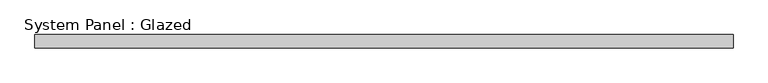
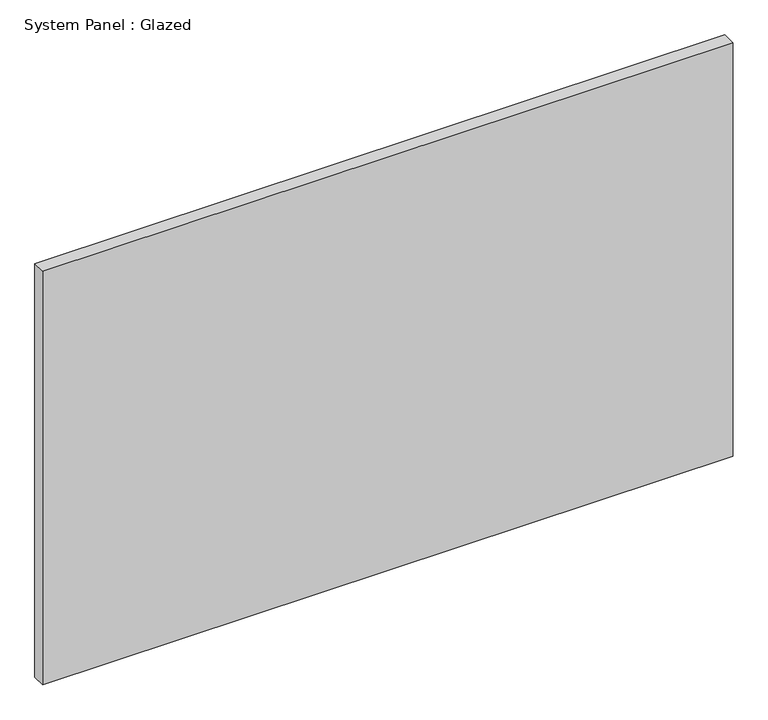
"""IFC4 building model written with IfcOpenShell, lengths in millimetres: plate geometry, System Panel : Glazed."""

from ifc_helpers import new_model, si_unit, origin, origin_with_axes, place, context, project, spatial, polyline, outline, extrude, source, transform, mapped, element, save


def system_panel_glazed_262f750d(model_context):
    return source(origin(), model_context, "Body", "SweptSolid", [
        extrude(outline(polyline([(651.2606048, -49.5), (-651.2606048, -49.5), (-651.2606048, -24.5), (651.2606048, -24.5), (651.2606048, -49.5)])), origin_with_axes(), (0.0, 0.0, 1.0), 825.0),
    ])


if __name__ == "__main__":
    model = new_model("IFC4")
    model_context = context("Model", 3, world=origin())
    ifc_project = project(units=[si_unit("LENGTHUNIT", "METRE", prefix="MILLI")], contexts=[model_context])
    site = spatial("IfcSite", under=ifc_project)
    building = spatial("IfcBuilding", under=site)
    placement = place(None, origin())
    system_panel_glazed_shape = system_panel_glazed_262f750d(model_context)
    element("IfcPlate", 1, ObjectType="System Panel : Glazed", at=placement, inside=building, context=model_context, shape_type="MappedRepresentation", body=[
        mapped(system_panel_glazed_shape, transform((0.0, 0.0, 0.0), x_axis=(1.0, 0.0, 0.0), y_axis=(0.0, 1.0, 0.0), z_axis=(0.0, 0.0, 1.0))),
    ])
    save(model, "model.ifc")
